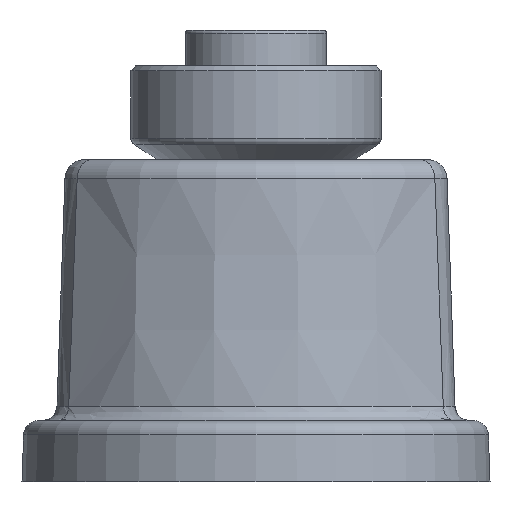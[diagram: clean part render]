
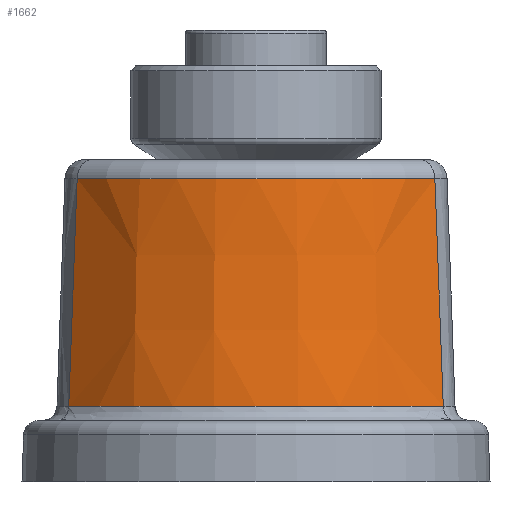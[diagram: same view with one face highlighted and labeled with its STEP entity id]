
A CAD part, front view. The second image highlights one B-rep face of the part: STEP entity #1662.
In plain terms, the highlighted conical face has half-angle 2 degrees and reference radius 25 mm.
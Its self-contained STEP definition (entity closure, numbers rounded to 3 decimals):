
#1619=CARTESIAN_POINT('',(0.,-23.12,-10.164));
#1620=DIRECTION('',(0.0,0.0,-1.0));
#1621=DIRECTION('',(1.0,0.0,0.0));
#1622=AXIS2_PLACEMENT_3D('',#1619,#1620,#1621);
#1623=CONICAL_SURFACE('',#1622,25.0,2.);
#1624=CARTESIAN_POINT('',(19.01,-39.279,-8.717));
#1625=VERTEX_POINT('',#1624);
#1626=CARTESIAN_POINT('',(-19.01,-39.279,-8.717));
#1627=VERTEX_POINT('',#1626);
#1628=CARTESIAN_POINT('',(0.,-23.12,-8.717));
#1629=DIRECTION('',(0.0,0.0,-1.0));
#1630=DIRECTION('',(0.0,-1.0,0.0));
#1631=AXIS2_PLACEMENT_3D('',#1628,#1629,#1630);
#1632=CIRCLE('',#1631,24.949);
#1633=EDGE_CURVE('',#1625,#1627,#1632,.T.);
#1634=ORIENTED_EDGE('',*,*,#1633,.F.);
#1635=CARTESIAN_POINT('',(18.152,-39.036,14.406));
#1636=VERTEX_POINT('',#1635);
#1637=CARTESIAN_POINT('',(18.152,-39.036,14.406));
#1638=CARTESIAN_POINT('',(18.439,-39.118,6.698));
#1639=CARTESIAN_POINT('',(18.725,-39.199,-1.009));
#1640=CARTESIAN_POINT('',(19.01,-39.279,-8.717));
#1641=B_SPLINE_CURVE_WITH_KNOTS('',3,(#1637,#1638,#1639,#1640),.UNSPECIFIED.,.F.,.U.,(4,4),(-29.59,-6.452),.UNSPECIFIED.);
#1642=EDGE_CURVE('',#1636,#1625,#1641,.T.);
#1643=ORIENTED_EDGE('',*,*,#1642,.F.);
#1644=CARTESIAN_POINT('',(-18.152,-39.036,14.406));
#1645=VERTEX_POINT('',#1644);
#1646=CARTESIAN_POINT('',(0.,-23.12,14.406));
#1647=DIRECTION('',(0.0,0.0,1.0));
#1648=DIRECTION('',(0.0,-1.0,0.0));
#1649=AXIS2_PLACEMENT_3D('',#1646,#1647,#1648);
#1650=CIRCLE('',#1649,24.142);
#1651=EDGE_CURVE('',#1645,#1636,#1650,.T.);
#1652=ORIENTED_EDGE('',*,*,#1651,.F.);
#1653=CARTESIAN_POINT('',(-19.01,-39.279,-8.717));
#1654=CARTESIAN_POINT('',(-18.725,-39.199,-1.009));
#1655=CARTESIAN_POINT('',(-18.439,-39.118,6.698));
#1656=CARTESIAN_POINT('',(-18.152,-39.036,14.406));
#1657=B_SPLINE_CURVE_WITH_KNOTS('',3,(#1653,#1654,#1655,#1656),.UNSPECIFIED.,.F.,.U.,(4,4),(6.452,29.59),.UNSPECIFIED.);
#1658=EDGE_CURVE('',#1627,#1645,#1657,.T.);
#1659=ORIENTED_EDGE('',*,*,#1658,.F.);
#1660=EDGE_LOOP('',(#1634,#1643,#1652,#1659));
#1661=FACE_OUTER_BOUND('',#1660,.T.);
#1662=ADVANCED_FACE('',(#1661),#1623,.T.);
